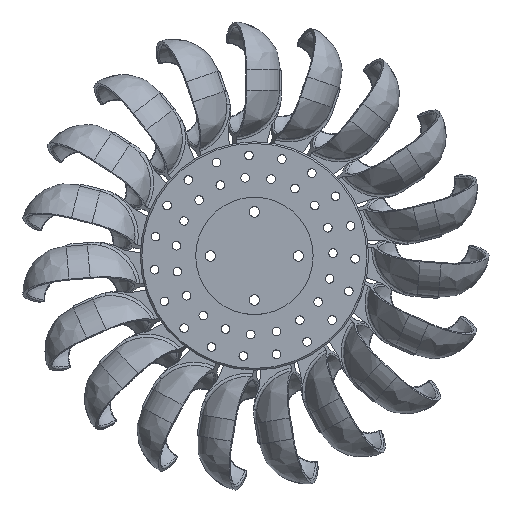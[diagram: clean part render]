
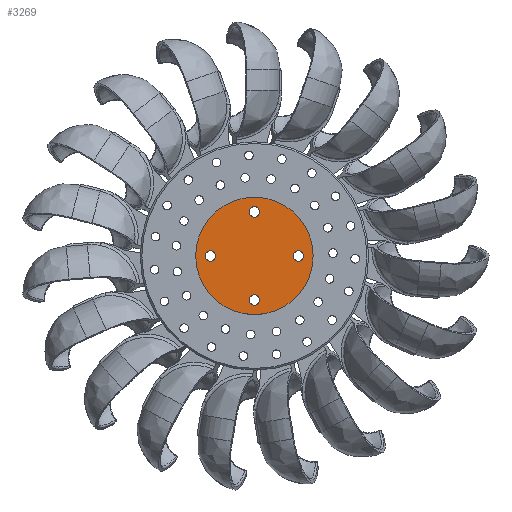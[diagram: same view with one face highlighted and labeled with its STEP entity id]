
A CAD part, top view. The second image highlights one B-rep face of the part: STEP entity #3269.
In plain terms, the highlighted planar face has unit normal (0, 0, 1) as drawn and (0, -1, 0) by its records, which use the part's own axes.
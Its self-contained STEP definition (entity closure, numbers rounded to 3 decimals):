
#271=FACE_BOUND('',#737,.T.);
#272=FACE_BOUND('',#738,.T.);
#273=FACE_BOUND('',#739,.T.);
#274=FACE_BOUND('',#740,.T.);
#384=PLANE('',#3721);
#475=FACE_OUTER_BOUND('',#736,.T.);
#736=EDGE_LOOP('',(#2566));
#737=EDGE_LOOP('',(#2567));
#738=EDGE_LOOP('',(#2568));
#739=EDGE_LOOP('',(#2569));
#740=EDGE_LOOP('',(#2570));
#1332=CIRCLE('',#3705,3.2);
#1334=CIRCLE('',#3708,3.2);
#1336=CIRCLE('',#3711,3.2);
#1338=CIRCLE('',#3714,3.2);
#1342=CIRCLE('',#3720,36.);
#1596=VERTEX_POINT('',#5359);
#1598=VERTEX_POINT('',#5365);
#1600=VERTEX_POINT('',#5371);
#1602=VERTEX_POINT('',#5377);
#1606=VERTEX_POINT('',#5388);
#1938=EDGE_CURVE('',#1596,#1596,#1332,.T.);
#1941=EDGE_CURVE('',#1598,#1598,#1334,.T.);
#1944=EDGE_CURVE('',#1600,#1600,#1336,.T.);
#1947=EDGE_CURVE('',#1602,#1602,#1338,.T.);
#1952=EDGE_CURVE('',#1606,#1606,#1342,.T.);
#2566=ORIENTED_EDGE('',*,*,#1952,.T.);
#2567=ORIENTED_EDGE('',*,*,#1938,.T.);
#2568=ORIENTED_EDGE('',*,*,#1941,.T.);
#2569=ORIENTED_EDGE('',*,*,#1944,.T.);
#2570=ORIENTED_EDGE('',*,*,#1947,.T.);
#3269=ADVANCED_FACE('',(#475,#271,#272,#273,#274),#384,.T.);
#3705=AXIS2_PLACEMENT_3D('',#5360,#4387,#4388);
#3708=AXIS2_PLACEMENT_3D('',#5366,#4394,#4395);
#3711=AXIS2_PLACEMENT_3D('',#5372,#4401,#4402);
#3714=AXIS2_PLACEMENT_3D('',#5378,#4408,#4409);
#3720=AXIS2_PLACEMENT_3D('',#5389,#4421,#4422);
#3721=AXIS2_PLACEMENT_3D('',#5391,#4424,#4425);
#4387=DIRECTION('center_axis',(0.,1.,0.));
#4388=DIRECTION('ref_axis',(0.,0.,1.));
#4394=DIRECTION('center_axis',(0.,1.,0.));
#4395=DIRECTION('ref_axis',(-1.,0.,0.));
#4401=DIRECTION('center_axis',(0.,1.,0.));
#4402=DIRECTION('ref_axis',(0.,0.,-1.));
#4408=DIRECTION('center_axis',(0.,1.,0.));
#4409=DIRECTION('ref_axis',(1.,0.,0.));
#4421=DIRECTION('center_axis',(0.,-1.,0.));
#4422=DIRECTION('ref_axis',(1.,0.,0.));
#4424=DIRECTION('center_axis',(0.,-1.,0.));
#4425=DIRECTION('ref_axis',(0.,0.,-1.));
#5359=CARTESIAN_POINT('',(-27.,-8.,-3.2));
#5360=CARTESIAN_POINT('Origin',(-27.,-8.,0.));
#5365=CARTESIAN_POINT('',(3.2,-8.,-27.));
#5366=CARTESIAN_POINT('Origin',(0.,-8.,
-27.));
#5371=CARTESIAN_POINT('',(27.,-8.,3.2));
#5372=CARTESIAN_POINT('Origin',(27.,-8.,0.));
#5377=CARTESIAN_POINT('',(-3.2,-8.,27.));
#5378=CARTESIAN_POINT('Origin',(0.,-8.,27.));
#5388=CARTESIAN_POINT('',(-36.,-8.,0.));
#5389=CARTESIAN_POINT('Origin',(0.,-8.,0.));
#5391=CARTESIAN_POINT('Origin',(0.,-8.,0.));
